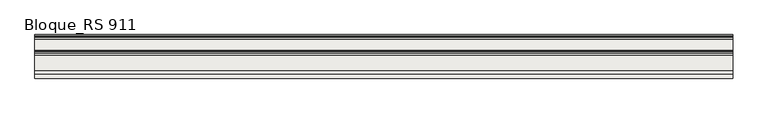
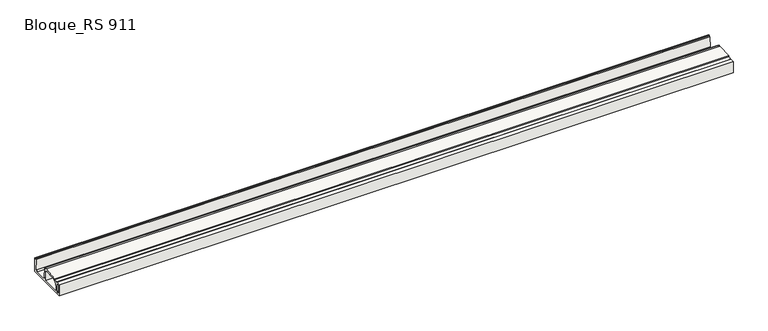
"""IFC4 building model written with IfcOpenShell, lengths in millimetres: slab geometry, ROSA GRES_RS 911 : Bloque_RS 911."""

from ifc_helpers import new_model, si_unit, point, frame, frame_2d, origin, place, context, project, spatial, polyline, circle_curve, trimmed, segment, composite_curve, outline, extrude, source, transform, mapped, element, save


def bloque_rs_911_a0e7da75(model_context):
    return source(origin(), model_context, "Body", "SweptSolid", [
        extrude(outline(composite_curve([segment(polyline([(12.836227, 1.7539108), (12.836227, 171.9333029), (67.836227, 176.4100471), (67.836227, 173.8170239), (72.836227, 173.8170239), (72.836227, 176.8170239), (125.1172881, 181.0724591), (123.836227, 196.8112099), (343.836227, 214.7181867), (343.836227, 216.3460936), (363.836227, 216.3460936), (363.836227, 206.3460936), (381.836227, 206.3460936), (393.5484732, 55.2086635)]), True, "CONTINUOUS"), segment(trimmed(circle_curve(frame_2d((413.4886891, 56.7539108)), 20.0), [point((393.5484732, 55.2086635))], [point((413.4886891, 36.7539108))], True, "CARTESIAN"), True, "CONTINUOUS"), segment(polyline([(413.4886891, 36.7539108), (567.1837649, 36.7539108)]), True, "CONTINUOUS"), segment(trimmed(circle_curve(frame_2d((567.1837649, 56.7539108)), 20.0), [point((567.1837649, 36.7539108))], [point((587.1239808, 55.2086635))], True, "CARTESIAN"), True, "CONTINUOUS"), segment(polyline([(587.1239808, 55.2086635), (598.836227, 206.3460936), (616.836227, 206.3460936), (616.836227, 216.3460936), (626.836227, 216.3460936), (626.836227, 1.7539108), (12.836227, 1.7539108)]), True, "CONTINUOUS")], self_intersect=False), holes=[composite_curve([segment(trimmed(circle_curve(frame_2d((59.836227, 140.6431347)), 8.0), [point((67.836227, 140.6431347))], [point((59.1872106, 148.6167648))], True, "CARTESIAN"), True, "CONTINUOUS"), segment(polyline([(59.1872106, 148.6167648), (47.1872106, 147.6400206)]), True, "CONTINUOUS"), segment(trimmed(circle_curve(frame_2d((47.836227, 139.6663905)), 8.0), [point((47.1872106, 147.6400206))], [point((39.836227, 139.6663905))], True, "CARTESIAN"), True, "CONTINUOUS"), segment(polyline([(39.836227, 139.6663905), (39.836227, 36.7539108)]), True, "CONTINUOUS"), segment(trimmed(circle_curve(frame_2d((47.836227, 36.7539108)), 8.0), [point((39.836227, 36.7539108))], [point((47.836227, 28.7539108))], True, "CARTESIAN"), True, "CONTINUOUS"), segment(polyline([(47.836227, 28.7539108), (59.836227, 28.7539108)]), True, "CONTINUOUS"), segment(trimmed(circle_curve(frame_2d((59.836227, 36.7539108)), 8.0), [point((59.836227, 28.7539108))], [point((67.836227, 36.7539108))], True, "CARTESIAN"), True, "CONTINUOUS"), segment(polyline([(67.836227, 36.7539108), (67.836227, 140.6431347)]), True, "CONTINUOUS")], self_intersect=False), composite_curve([segment(trimmed(circle_curve(frame_2d((187.3063127, 84.534333)), 85.0), [point((180.4105134, 169.2541533))], [point((102.3063127, 84.534333))], True, "CARTESIAN"), True, "CONTINUOUS"), segment(polyline([(102.3063127, 84.534333), (102.3063127, 28.7539108), (356.3063127, 28.7539108), (356.3063127, 161.8772036)]), True, "CONTINUOUS"), segment(trimmed(circle_curve(frame_2d((336.3063127, 161.8772036)), 20.0), [point((356.3063127, 161.8772036))], [point((334.6837717, 181.811279))], True, "CARTESIAN"), True, "CONTINUOUS"), segment(polyline([(334.6837717, 181.811279), (180.4105134, 169.2541533)]), True, "CONTINUOUS")], self_intersect=False)]), frame((0.0, 0.0, 0.0), z_axis=(1.0, 0.0, 0.0), x_axis=(0.0, 1.0, 0.0)), (0.0, 0.0, 1.0), 9821.5518822),
    ])


if __name__ == "__main__":
    model = new_model("IFC4")
    model_context = context("Model", 3, world=origin())
    ifc_project = project(units=[si_unit("LENGTHUNIT", "METRE", prefix="MILLI")], contexts=[model_context])
    site = spatial("IfcSite", under=ifc_project)
    building = spatial("IfcBuilding", under=site)
    placement = place(None, origin())
    bloque_rs_911_shape = bloque_rs_911_a0e7da75(model_context)
    element("IfcSlab", 1, ObjectType="ROSA GRES_RS 911 : Bloque_RS 911", at=placement, inside=building, context=model_context, shape_type="MappedRepresentation", body=[
        mapped(bloque_rs_911_shape, transform((0.0, 0.0, 0.0), x_axis=(1.0, 0.0, 0.0), y_axis=(0.0, 1.0, 0.0), z_axis=(0.0, 0.0, 1.0))),
    ])
    save(model, "model.ifc")
